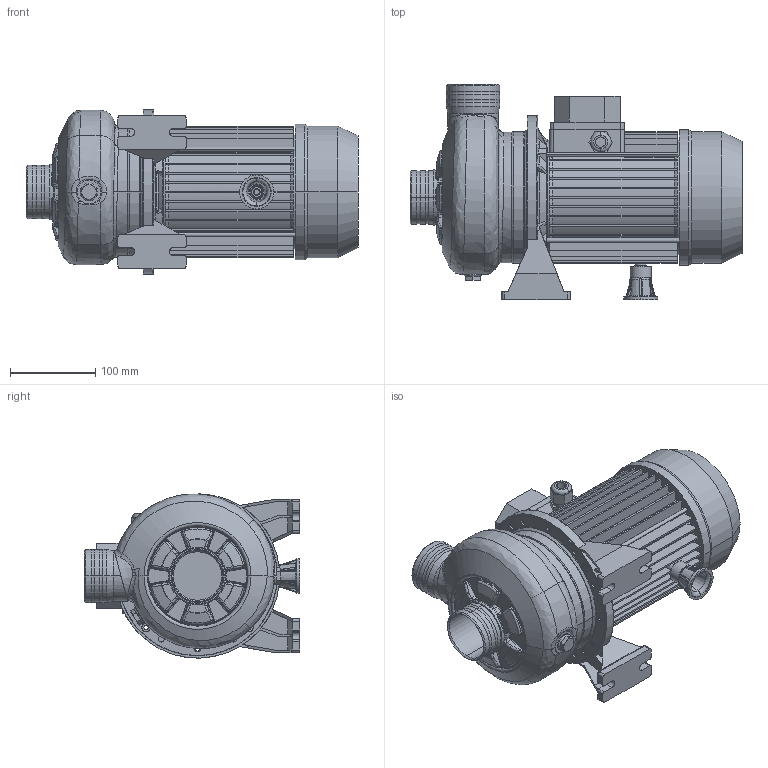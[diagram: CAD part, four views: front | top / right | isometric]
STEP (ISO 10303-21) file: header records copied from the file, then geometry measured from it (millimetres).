
FILE_DESCRIPTION((''),'2;1');
FILE_NAME('DWO_150_IE3_ASM','2018-06-04T',('rosa'),('"Ebara Pumps Europe +39.444.706811"'),'PRO/ENGINEER BY PARAMETRIC TECHNOLOGY CORPORATION, 2012130','PRO/ENGINEER BY PARAMETRIC TECHNOLOGY CORPORATION, 2012130','');
FILE_SCHEMA(('AUTOMOTIVE_DESIGN { 1 0 10303 214 1 1 1 1 }'));
Length unit declared in the file: millimetre
Products named in the file (12): MEC_80X130_IE3; 80596; 251420990; 62036; 62035; 10053; 76006; 40032; 20992_ASM; 72011; 72028; DWO_150_IE3_ASM
Assembly tree (13 placements, depth 3):
  DWO_150_IE3_ASM
    MEC_80X130_IE3
    80596
    20992_ASM
      251420990
      62036
      62035
      10053
      76006  x2
      40032  x2
    72011
    72028
Bounding box: 390 x 253 x 192.93 mm (x, y, z)
Volume: 2791634 mm3; surface area: 689887.4 mm2
Topology: 12 solids, 12 shells, 1328 faces, 3219 edges, 1944 vertices
Faces by surface type: plane 423, cylinder 296, bspline 272, torus 168, cone 143, sphere 22, extrusion 4
Entity records: 65569 total; most frequent: CARTESIAN_POINT 25087, ORIENTED_EDGE 6306, DIRECTION 5735, EDGE_CURVE 3153, PRESENTATION_STYLE_ASSIGNMENT 3106, STYLED_ITEM 3106, CURVE_STYLE 3097, AXIS2_PLACEMENT_3D 2340
